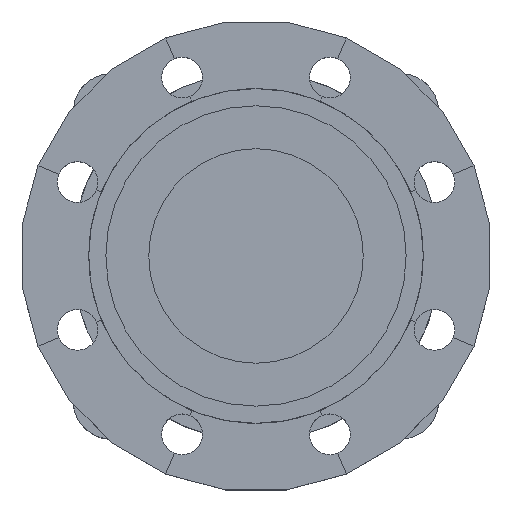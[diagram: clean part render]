
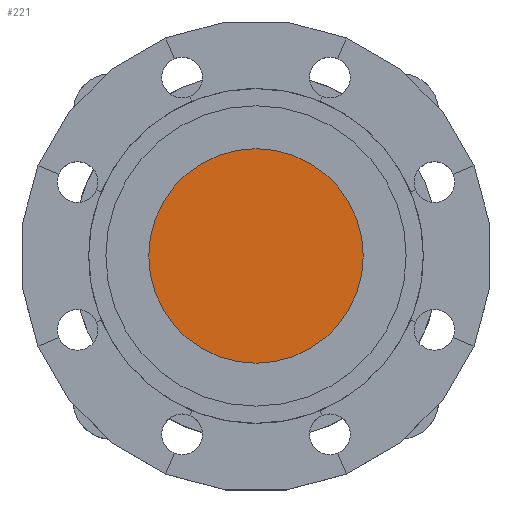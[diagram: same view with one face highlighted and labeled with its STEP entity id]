
A CAD part, top view. The second image highlights one B-rep face of the part: STEP entity #221.
In plain terms, the highlighted planar face has unit normal (0, 0, 1).
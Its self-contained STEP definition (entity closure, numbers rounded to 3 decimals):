
#160=AXIS2_PLACEMENT_3D('Circle Axis2P3D',#158,#159,$) ;
#185=AXIS2_PLACEMENT_3D('Circle Axis2P3D',#183,#184,$) ;
#215=AXIS2_PLACEMENT_3D('Plane Axis2P3D',#212,#213,#214) ;
#141=CARTESIAN_POINT('Vertex',(50.,0.,155.1)) ;
#155=CARTESIAN_POINT('Vertex',(-50.,0.,155.1)) ;
#158=CARTESIAN_POINT('Axis2P3D Location',(0.,0.,155.1)) ;
#183=CARTESIAN_POINT('Axis2P3D Location',(0.,0.,155.1)) ;
#212=CARTESIAN_POINT('Axis2P3D Location',(0.,0.,155.1)) ;
#159=DIRECTION('Axis2P3D Direction',(-0.,0.,-1.)) ;
#184=DIRECTION('Axis2P3D Direction',(0.,0.,-1.)) ;
#213=DIRECTION('Axis2P3D Direction',(0.,0.,1.)) ;
#214=DIRECTION('Axis2P3D XDirection',(1.,0.,0.)) ;
#218=ORIENTED_EDGE('',*,*,#162,.T.) ;
#219=ORIENTED_EDGE('',*,*,#187,.T.) ;
#221=ADVANCED_FACE('2',(#220),#216,.T.) ;
#161=CIRCLE('generated circle',#160,50.) ;
#186=CIRCLE('generated circle',#185,50.) ;
#162=EDGE_CURVE('',#142,#156,#161,.F.) ;
#187=EDGE_CURVE('',#156,#142,#186,.F.) ;
#217=EDGE_LOOP('',(#218,#219)) ;
#220=FACE_OUTER_BOUND('',#217,.T.) ;
#216=PLANE('',#215) ;
#142=VERTEX_POINT('',#141) ;
#156=VERTEX_POINT('',#155) ;
